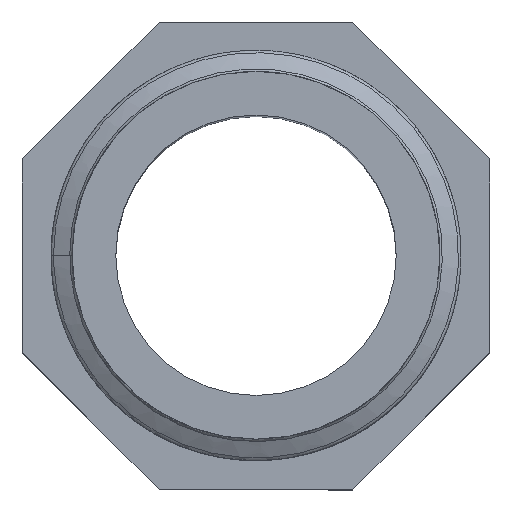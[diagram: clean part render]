
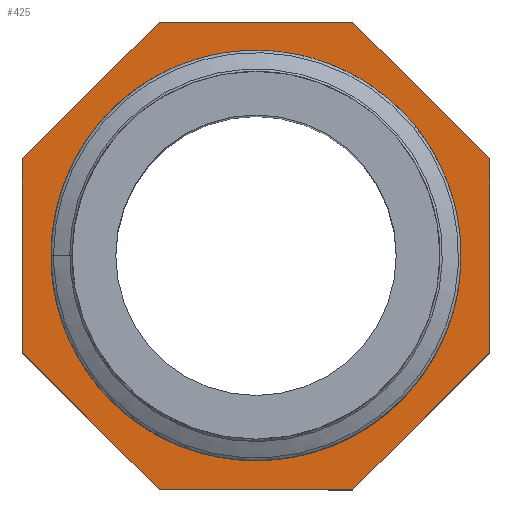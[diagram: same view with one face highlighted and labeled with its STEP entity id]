
A CAD part, top view. The second image highlights one B-rep face of the part: STEP entity #425.
In plain terms, the highlighted planar face has unit normal (0, 0, 1).
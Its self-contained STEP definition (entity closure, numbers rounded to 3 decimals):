
#39=FACE_BOUND('',#95,.T.);
#48=B_SPLINE_CURVE_WITH_KNOTS('',3,(#660,#661,#662,#663,#664,#665,#666,
#667,#668,#669,#670,#671),.UNSPECIFIED.,.F.,.F.,(4,2,2,2,2,4),(-0.823,
-0.715,-0.587,-0.4,-0.208,
0.),.UNSPECIFIED.);
#49=B_SPLINE_CURVE_WITH_KNOTS('',3,(#673,#674,#675,#676,#677,#678,#679,
#680,#681,#682,#683,#684,#685),.UNSPECIFIED.,.F.,.F.,(4,3,3,3,4),(-1.279,
-0.899,-0.508,-0.108,0.),
 .UNSPECIFIED.);
#50=B_SPLINE_CURVE_WITH_KNOTS('',3,(#687,#688,#689,#690,#691,#692,#693,
#694),.UNSPECIFIED.,.F.,.F.,(4,2,2,4),(-0.357,-0.26,
-0.169,0.),.UNSPECIFIED.);
#51=B_SPLINE_CURVE_WITH_KNOTS('',3,(#696,#697,#698,#699,#700,#701),
 .UNSPECIFIED.,.F.,.F.,(4,2,4),(-0.66,-0.291,0.),
 .UNSPECIFIED.);
#52=B_SPLINE_CURVE_WITH_KNOTS('',3,(#702,#703,#704,#705,#706,#707,#708,
#709,#710,#711,#712,#713,#714),.UNSPECIFIED.,.F.,.F.,(4,3,3,3,4),(-1.277,
-0.877,-0.486,-0.104,0.),
 .UNSPECIFIED.);
#66=FACE_OUTER_BOUND('',#94,.T.);
#94=EDGE_LOOP('',(#299,#300,#301,#302,#303,#304,#305,#306));
#95=EDGE_LOOP('',(#307,#308,#309,#310,#311));
#132=LINE('',#644,#162);
#133=LINE('',#646,#163);
#134=LINE('',#648,#164);
#135=LINE('',#650,#165);
#136=LINE('',#652,#166);
#137=LINE('',#654,#167);
#138=LINE('',#656,#168);
#139=LINE('',#657,#169);
#162=VECTOR('',#494,7.87);
#163=VECTOR('',#495,7.87);
#164=VECTOR('',#496,7.87);
#165=VECTOR('',#497,7.87);
#166=VECTOR('',#498,7.87);
#167=VECTOR('',#499,7.87);
#168=VECTOR('',#500,7.87);
#169=VECTOR('',#501,7.87);
#197=VERTEX_POINT('',#642);
#198=VERTEX_POINT('',#643);
#199=VERTEX_POINT('',#645);
#200=VERTEX_POINT('',#647);
#201=VERTEX_POINT('',#649);
#202=VERTEX_POINT('',#651);
#203=VERTEX_POINT('',#653);
#204=VERTEX_POINT('',#655);
#205=VERTEX_POINT('',#658);
#206=VERTEX_POINT('',#659);
#207=VERTEX_POINT('',#672);
#208=VERTEX_POINT('',#686);
#209=VERTEX_POINT('',#695);
#237=EDGE_CURVE('',#197,#198,#132,.T.);
#238=EDGE_CURVE('',#198,#199,#133,.T.);
#239=EDGE_CURVE('',#199,#200,#134,.T.);
#240=EDGE_CURVE('',#200,#201,#135,.T.);
#241=EDGE_CURVE('',#201,#202,#136,.T.);
#242=EDGE_CURVE('',#202,#203,#137,.T.);
#243=EDGE_CURVE('',#203,#204,#138,.T.);
#244=EDGE_CURVE('',#204,#197,#139,.T.);
#245=EDGE_CURVE('',#205,#206,#48,.T.);
#246=EDGE_CURVE('',#207,#205,#49,.T.);
#247=EDGE_CURVE('',#208,#207,#50,.T.);
#248=EDGE_CURVE('',#209,#208,#51,.T.);
#249=EDGE_CURVE('',#206,#209,#52,.T.);
#299=ORIENTED_EDGE('',*,*,#237,.T.);
#300=ORIENTED_EDGE('',*,*,#238,.T.);
#301=ORIENTED_EDGE('',*,*,#239,.T.);
#302=ORIENTED_EDGE('',*,*,#240,.T.);
#303=ORIENTED_EDGE('',*,*,#241,.T.);
#304=ORIENTED_EDGE('',*,*,#242,.T.);
#305=ORIENTED_EDGE('',*,*,#243,.T.);
#306=ORIENTED_EDGE('',*,*,#244,.T.);
#307=ORIENTED_EDGE('',*,*,#245,.F.);
#308=ORIENTED_EDGE('',*,*,#246,.F.);
#309=ORIENTED_EDGE('',*,*,#247,.F.);
#310=ORIENTED_EDGE('',*,*,#248,.F.);
#311=ORIENTED_EDGE('',*,*,#249,.F.);
#411=PLANE('',#454);
#425=ADVANCED_FACE('',(#66,#39),#411,.T.);
#454=AXIS2_PLACEMENT_3D('',#641,#492,#493);
#492=DIRECTION('center_axis',(0.,0.,1.));
#493=DIRECTION('ref_axis',(1.,0.,0.));
#494=DIRECTION('',(-1.,0.,0.));
#495=DIRECTION('',(-0.707,-0.707,0.));
#496=DIRECTION('',(0.,-1.,0.));
#497=DIRECTION('',(0.707,-0.707,0.));
#498=DIRECTION('',(1.,0.,0.));
#499=DIRECTION('',(0.707,0.707,0.));
#500=DIRECTION('',(0.,1.,0.));
#501=DIRECTION('',(-0.707,0.707,0.));
#641=CARTESIAN_POINT('Origin',(0.,0.,
6.));
#642=CARTESIAN_POINT('',(3.935,9.5,6.));
#643=CARTESIAN_POINT('',(-3.935,9.5,6.));
#644=CARTESIAN_POINT('',(-3.935,9.5,6.));
#645=CARTESIAN_POINT('',(-9.5,3.935,6.));
#646=CARTESIAN_POINT('',(-9.5,3.935,6.));
#647=CARTESIAN_POINT('',(-9.5,-3.935,6.));
#648=CARTESIAN_POINT('',(-9.5,-3.935,6.));
#649=CARTESIAN_POINT('',(-3.935,-9.5,6.));
#650=CARTESIAN_POINT('',(-3.935,-9.5,6.));
#651=CARTESIAN_POINT('',(3.935,-9.5,6.));
#652=CARTESIAN_POINT('',(3.935,-9.5,6.));
#653=CARTESIAN_POINT('',(9.5,-3.935,6.));
#654=CARTESIAN_POINT('',(9.5,-3.935,6.));
#655=CARTESIAN_POINT('',(9.5,3.935,6.));
#656=CARTESIAN_POINT('',(9.5,3.935,6.));
#657=CARTESIAN_POINT('',(3.935,9.5,6.));
#658=CARTESIAN_POINT('',(-1.382,8.115,6.));
#659=CARTESIAN_POINT('',(-8.165,-1.056,6.));
#660=CARTESIAN_POINT('Ctrl Pts',(-1.382,8.115,6.));
#661=CARTESIAN_POINT('Ctrl Pts',(-1.79,8.067,6.));
#662=CARTESIAN_POINT('Ctrl Pts',(-2.296,7.967,6.));
#663=CARTESIAN_POINT('Ctrl Pts',(-3.531,7.544,6.));
#664=CARTESIAN_POINT('Ctrl Pts',(-4.167,7.224,6.));
#665=CARTESIAN_POINT('Ctrl Pts',(-5.604,6.246,6.));
#666=CARTESIAN_POINT('Ctrl Pts',(-6.338,5.506,6.));
#667=CARTESIAN_POINT('Ctrl Pts',(-7.504,3.768,6.));
#668=CARTESIAN_POINT('Ctrl Pts',(-7.917,2.777,6.));
#669=CARTESIAN_POINT('Ctrl Pts',(-8.348,0.607,6.));
#670=CARTESIAN_POINT('Ctrl Pts',(-8.287,-0.372,6.));
#671=CARTESIAN_POINT('Ctrl Pts',(-8.164,-1.056,6.));
#672=CARTESIAN_POINT('',(7.511,0.971,6.));
#673=CARTESIAN_POINT('Ctrl Pts',(7.511,0.971,6.));
#674=CARTESIAN_POINT('Ctrl Pts',(7.417,2.233,6.));
#675=CARTESIAN_POINT('Ctrl Pts',(7.001,3.467,6.));
#676=CARTESIAN_POINT('Ctrl Pts',(6.32,4.53,6.));
#677=CARTESIAN_POINT('Ctrl Pts',(5.621,5.623,6.));
#678=CARTESIAN_POINT('Ctrl Pts',(4.642,6.535,6.));
#679=CARTESIAN_POINT('Ctrl Pts',(3.51,7.164,6.));
#680=CARTESIAN_POINT('Ctrl Pts',(2.349,7.809,6.));
#681=CARTESIAN_POINT('Ctrl Pts',(1.02,8.157,6.));
#682=CARTESIAN_POINT('Ctrl Pts',(-0.309,8.174,6.));
#683=CARTESIAN_POINT('Ctrl Pts',(-0.666,8.178,6.));
#684=CARTESIAN_POINT('Ctrl Pts',(-1.025,8.158,6.));
#685=CARTESIAN_POINT('Ctrl Pts',(-1.382,8.115,6.));
#686=CARTESIAN_POINT('',(6.01,-4.445,6.));
#687=CARTESIAN_POINT('Ctrl Pts',(6.01,-4.445,6.));
#688=CARTESIAN_POINT('Ctrl Pts',(6.355,-3.978,6.));
#689=CARTESIAN_POINT('Ctrl Pts',(6.646,-3.475,6.));
#690=CARTESIAN_POINT('Ctrl Pts',(7.094,-2.451,6.));
#691=CARTESIAN_POINT('Ctrl Pts',(7.258,-1.937,6.));
#692=CARTESIAN_POINT('Ctrl Pts',(7.574,-0.427,6.));
#693=CARTESIAN_POINT('Ctrl Pts',(7.553,0.409,6.));
#694=CARTESIAN_POINT('Ctrl Pts',(7.511,0.971,6.));
#695=CARTESIAN_POINT('',(1.271,-7.466,6.));
#696=CARTESIAN_POINT('Ctrl Pts',(1.271,-7.466,6.));
#697=CARTESIAN_POINT('Ctrl Pts',(1.876,-7.329,6.));
#698=CARTESIAN_POINT('Ctrl Pts',(2.85,-7.058,6.));
#699=CARTESIAN_POINT('Ctrl Pts',(4.714,-5.889,6.));
#700=CARTESIAN_POINT('Ctrl Pts',(5.432,-5.226,6.));
#701=CARTESIAN_POINT('Ctrl Pts',(6.01,-4.445,6.));
#702=CARTESIAN_POINT('Ctrl Pts',(-8.164,-1.056,6.));
#703=CARTESIAN_POINT('Ctrl Pts',(-7.928,-2.37,6.));
#704=CARTESIAN_POINT('Ctrl Pts',(-7.365,-3.624,6.));
#705=CARTESIAN_POINT('Ctrl Pts',(-6.537,-4.668,6.));
#706=CARTESIAN_POINT('Ctrl Pts',(-5.727,-5.688,6.));
#707=CARTESIAN_POINT('Ctrl Pts',(-4.663,-6.506,6.));
#708=CARTESIAN_POINT('Ctrl Pts',(-3.47,-7.02,6.));
#709=CARTESIAN_POINT('Ctrl Pts',(-2.307,-7.522,6.));
#710=CARTESIAN_POINT('Ctrl Pts',(-1.015,-7.735,6.));
#711=CARTESIAN_POINT('Ctrl Pts',(0.247,-7.626,6.));
#712=CARTESIAN_POINT('Ctrl Pts',(0.591,-7.596,6.));
#713=CARTESIAN_POINT('Ctrl Pts',(0.933,-7.543,6.));
#714=CARTESIAN_POINT('Ctrl Pts',(1.271,-7.466,6.));
